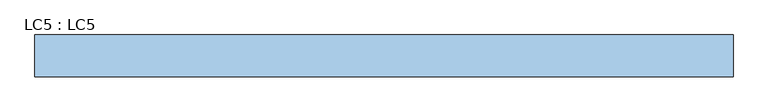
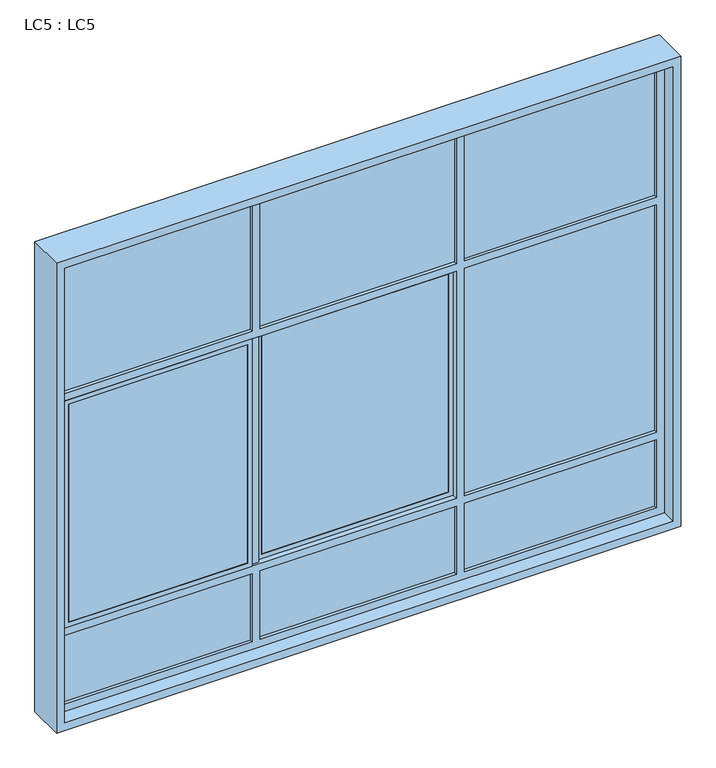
"""IFC4 building model written with IfcOpenShell, lengths in millimetres: window geometry, LC5 : LC5."""

from ifc_helpers import new_model, si_unit, frame, origin, place, context, project, spatial, polyline, outline, extrude, source, transform, mapped, element, save


def lc5_lc5_9ec79463(model_context):
    return source(origin(), model_context, "Body", "SweptSolid", [
        extrude(outline(polyline([(-675.0, -5.0), (-1850.0, -5.0), (-1850.0, 5.0), (-675.0, 5.0), (-675.0, -5.0)])), frame((0.0, 0.0, 2450.0), z_axis=(0.0, 0.0, 1.0), x_axis=(1.0, 0.0, 0.0)), (0.0, 0.0, 1.0), 850.0),
        extrude(outline(polyline([(600.0, -5.0), (-625.0, -5.0), (-625.0, 5.0), (600.0, 5.0), (600.0, -5.0)])), frame((0.0, 0.0, 2450.0), z_axis=(0.0, 0.0, 1.0), x_axis=(1.0, 0.0, 0.0)), (0.0, 0.0, 1.0), 850.0),
        extrude(outline(polyline([(1850.0, -5.0), (650.0, -5.0), (650.0, 5.0), (1850.0, 5.0), (1850.0, -5.0)])), frame((0.0, 0.0, 2450.0), z_axis=(0.0, 0.0, 1.0), x_axis=(1.0, 0.0, 0.0)), (0.0, 0.0, 1.0), 850.0),
        extrude(outline(polyline([(1850.0, -5.0), (650.0, -5.0), (650.0, 5.0), (1850.0, 5.0), (1850.0, -5.0)])), frame((0.0, 0.0, 900.0), z_axis=(0.0, 0.0, 1.0), x_axis=(1.0, 0.0, 0.0)), (0.0, 0.0, 1.0), 1500.0),
        extrude(outline(polyline([(-675.0, -5.0), (-1850.0, -5.0), (-1850.0, 5.0), (-675.0, 5.0), (-675.0, -5.0)])), frame((0.0, 0.0, 400.0), z_axis=(0.0, 0.0, 1.0), x_axis=(1.0, 0.0, 0.0)), (0.0, 0.0, 1.0), 450.0),
        extrude(outline(polyline([(600.0, -5.0), (-625.0, -5.0), (-625.0, 5.0), (600.0, 5.0), (600.0, -5.0)])), frame((0.0, 0.0, 400.0), z_axis=(0.0, 0.0, 1.0), x_axis=(1.0, 0.0, 0.0)), (0.0, 0.0, 1.0), 450.0),
        extrude(outline(polyline([(1850.0, -5.0), (650.0, -5.0), (650.0, 5.0), (1850.0, 5.0), (1850.0, -5.0)])), frame((0.0, 0.0, 400.0), z_axis=(0.0, 0.0, 1.0), x_axis=(1.0, 0.0, 0.0)), (0.0, 0.0, 1.0), 450.0),
        extrude(outline(polyline([(570.0, 12.5), (-595.0, 12.5), (-595.0, 22.5), (570.0, 22.5), (570.0, 12.5)])), frame((0.0, 0.0, 930.0), z_axis=(0.0, 0.0, 1.0), x_axis=(1.0, 0.0, 0.0)), (0.0, 0.0, 1.0), 1440.0),
        extrude(outline(polyline([(-705.0, -22.5), (-1820.0, -22.5), (-1820.0, -12.5), (-705.0, -12.5), (-705.0, -22.5)])), frame((0.0, 0.0, 930.0), z_axis=(0.0, 0.0, 1.0), x_axis=(1.0, 0.0, 0.0)), (0.0, 0.0, 1.0), 1440.0),
        extrude(outline(polyline([(2400.0, 600.0), (2400.0, -625.0), (900.0, -625.0), (900.0, 600.0), (2400.0, 600.0)]), holes=[polyline([(2370.0, 570.0), (930.0, 570.0), (930.0, -595.0), (2370.0, -595.0), (2370.0, 570.0)])]), frame((0.0, 10.0, 0.0), z_axis=(0.0, 1.0, 0.0), x_axis=(0.0, 0.0, 1.0)), (0.0, 0.0, 1.0), 15.0),
        extrude(outline(polyline([(2400.0, -675.0), (2400.0, -1850.0), (900.0, -1850.0), (900.0, -675.0), (2400.0, -675.0)]), holes=[polyline([(2370.0, -705.0), (930.0, -705.0), (930.0, -1820.0), (2370.0, -1820.0), (2370.0, -705.0)])]), frame((0.0, -25.0, 0.0), z_axis=(0.0, 1.0, 0.0), x_axis=(0.0, 0.0, 1.0)), (0.0, 0.0, 1.0), 15.0),
        extrude(outline(polyline([(-625.0, -10.0), (-675.0, -10.0), (-675.0, 10.0), (-625.0, 10.0), (-625.0, -10.0)])), frame((0.0, 0.0, 900.0), z_axis=(0.0, 0.0, 1.0), x_axis=(1.0, 0.0, 0.0)), (0.0, 0.0, 1.0), 1500.0),
        extrude(outline(polyline([(3350.0, 1900.0), (3350.0, -1900.0), (350.0, -1900.0), (350.0, 1900.0), (3350.0, 1900.0)]), holes=[polyline([(3300.0, -675.0), (2450.0, -675.0), (2450.0, -1850.0), (3300.0, -1850.0), (3300.0, -675.0)]), polyline([(2450.0, -625.0), (3300.0, -625.0), (3300.0, 600.0), (2450.0, 600.0), (2450.0, -625.0)]), polyline([(3300.0, 1850.0), (2450.0, 1850.0), (2450.0, 650.0), (3300.0, 650.0), (3300.0, 1850.0)]), polyline([(400.0, 600.0), (400.0, -625.0), (850.0, -625.0), (850.0, 600.0), (400.0, 600.0)]), polyline([(2400.0, 1850.0), (900.0, 1850.0), (900.0, 650.0), (2400.0, 650.0), (2400.0, 1850.0)]), polyline([(850.0, 1850.0), (400.0, 1850.0), (400.0, 650.0), (850.0, 650.0), (850.0, 1850.0)]), polyline([(2400.0, 600.0), (900.0, 600.0), (900.0, -1850.0), (2400.0, -1850.0), (2400.0, 600.0)]), polyline([(850.0, -1850.0), (850.0, -675.0), (400.0, -675.0), (400.0, -1850.0), (850.0, -1850.0)])]), frame((0.0, -25.0, 0.0), z_axis=(0.0, 1.0, 0.0), x_axis=(0.0, 0.0, 1.0)), (0.0, 0.0, 1.0), 50.0),
        extrude(outline(polyline([(3400.0, 1950.0), (3400.0, -1950.0), (300.0, -1950.0), (300.0, 1950.0), (3400.0, 1950.0)]), holes=[polyline([(3350.0, 1900.0), (350.0, 1900.0), (350.0, -1900.0), (3350.0, -1900.0), (3350.0, 1900.0)])]), frame((0.0, -117.0, 0.0), z_axis=(0.0, 1.0, 0.0), x_axis=(0.0, 0.0, 1.0)), (0.0, 0.0, 1.0), 234.0),
    ])


if __name__ == "__main__":
    model = new_model("IFC4")
    model_context = context("Model", 3, world=origin())
    ifc_project = project(units=[si_unit("LENGTHUNIT", "METRE", prefix="MILLI")], contexts=[model_context])
    site = spatial("IfcSite", under=ifc_project)
    building = spatial("IfcBuilding", under=site)
    placement = place(None, origin())
    lc5_lc5_shape = lc5_lc5_9ec79463(model_context)
    element("IfcWindow", 1, ObjectType="LC5 : LC5", at=placement, inside=building, context=model_context, shape_type="MappedRepresentation", body=[
        mapped(lc5_lc5_shape, transform((0.0, 0.0, 0.0), x_axis=(1.0, 0.0, 0.0), y_axis=(0.0, 1.0, 0.0), z_axis=(0.0, 0.0, 1.0))),
    ])
    save(model, "model.ifc")
